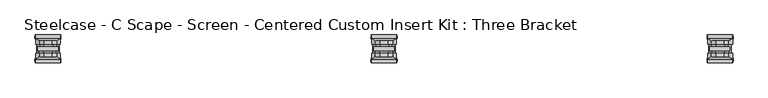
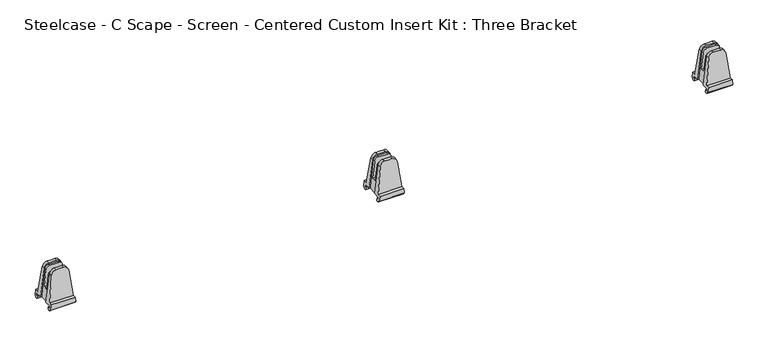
"""IFC4 building model written with IfcOpenShell, lengths in millimetres: furniture geometry, Steelcase - C Scape - Screen - Centered Custom Insert Kit : Three Bracket."""

from ifc_helpers import new_model, si_unit, frame, origin, place, context, project, spatial, circle_curve, ellipse_curve, source, transform, mapped, element, save
from ifc_brep_helpers import plane_surface, cylinder_surface, advanced_brep


def steelcase_c_scape_screen_centered_custom_insert_kit_three_046cbbfb(model_context):
    return source(origin(), model_context, "Body", "AdvancedBrep", [
        advanced_brep(
        [(753.8841595, -3.1752569, 793.5976353), (761.4879451, -3.1752569, 793.5976353), (769.13417, -3.1752569, 793.5976353), (769.13417, 3.17474, 793.5976353), (761.4879451, 3.17474, 793.5976353), (753.8841595, 3.17474, 793.5976353), (743.5729677, -3.1752569, 784.4759275), (736.1293978, -3.1752569, 723.9), (738.2133023, -3.1752569, 723.9), (744.4718736, -3.1752569, 783.4463283), (752.4737285, -3.1752569, 790.6512308), (772.0716053, -3.1752569, 790.6512308), (778.3871278, -3.1752569, 784.9620449), (784.7762521, -3.1752569, 723.9), (786.8889317, -3.1752569, 723.9), (779.4453617, -3.1752569, 784.4759275), (736.1293978, 10.1600734, 723.9), (786.8889317, 10.1600734, 723.9), (784.7762521, -22.2252569, 723.9), (786.8889317, -22.2250614, 723.9), (786.8889317, -35.5603917, 723.9), (736.1293978, -35.5603917, 723.9), (736.1293978, -22.2250614, 723.9), (738.2133023, -22.2250614, 723.9), (735.6607499, 10.1600734, 720.086134), (787.3575796, 10.1600734, 720.086134), (735.6607499, 6.7312129, 720.086134), (787.3575796, 6.7312129, 720.086134), (735.1301568, 6.7312129, 715.7681562), (787.8881727, 6.7312129, 715.7681562), (734.9195087, 9.1438564, 714.375), (788.0563815, 9.1438564, 714.375), (734.9589658, 11.8111354, 714.375), (788.0563815, 11.8111354, 714.375), (735.4271404, 15.6202052, 718.1850145), (787.5911891, 15.6202052, 718.1850145), (736.7754785, 15.6202052, 729.1578186), (786.242851, 15.6202052, 729.1578186), (736.7754785, 8.8135415, 729.1578186), (786.242851, 8.8135415, 729.1578186), (743.5729677, 3.9729344, 784.4759275), (779.4453617, 3.9729344, 784.4759275), (736.7754785, -34.2138598, 729.1578186), (786.242851, -34.2138598, 729.1578186), (779.4453617, -29.3732527, 784.4759275), (769.13417, -28.5750583, 793.5976353), (761.4879451, -28.5750583, 793.5976353), (753.8841595, -28.5750583, 793.5976353), (743.5729677, -29.3732527, 784.4759275), (736.7754785, -41.0205235, 729.1578186), (786.242851, -41.0205235, 729.1578186), (735.4271404, -41.0205235, 718.1850145), (787.5911891, -41.0205235, 718.1850145), (734.9195087, -37.2114537, 714.375), (788.0563815, -37.2114537, 714.375), (734.9589658, -34.5441746, 714.375), (788.0563815, -34.5441746, 714.375), (735.1301568, -32.1315312, 715.7681562), (787.8881727, -32.1315312, 715.7681562), (735.6607499, -32.1315312, 720.086134), (787.3575796, -32.1315312, 720.086134), (735.6607499, -35.5603917, 720.086134), (787.3575796, -35.5603917, 720.086134), (753.8841595, -22.2250614, 793.5976353), (761.4879451, -22.2250614, 793.5976353), (769.13417, -22.2250614, 793.5976353), (779.4453617, -22.2250614, 784.4759275), (778.9292917, -22.2250614, 779.780484), (771.1476145, -22.2250614, 786.79042), (751.6210312, -22.2250614, 786.79042), (744.1128008, -22.2250614, 780.0299789), (743.5729677, -22.2250614, 784.4759275), (751.6210312, -17.4500569, 786.79042), (771.1476145, -17.4500569, 786.79042), (778.9292917, -17.4500569, 779.780484), (782.2142458, -17.4500569, 748.3855694), (740.7868394, -17.4500569, 748.3855694), (744.1128008, -17.4500569, 780.0299789), (740.7868394, -7.9504569, 748.3855694), (744.4718736, -7.9504569, 783.4463283), (778.3871278, -7.9504569, 784.9620449), (782.2142458, -7.9504569, 748.3855694), (752.4737285, -7.9504569, 790.6512308), (772.0716053, -7.9504569, 790.6512308)],
        [
            (0, 1),
            (1, 2),
            (2, 3),
            (3, 4),
            (4, 5),
            (5, 0),
            (0, 6, circle_curve(frame((753.8841595, -3.1752569, 783.2088883), z_axis=(0.0, -1.0, 0.0), x_axis=(-1.0, 0.0, 0.0)), 10.388747)),
            (6, 7),
            (7, 8),
            (8, 9),
            (9, 10, circle_curve(frame((752.4737285, -3.1752569, 782.6052995), z_axis=(0.0, 1.0, 0.0), x_axis=(1.0, 0.0, 0.0)), 8.0459313)),
            (10, 11),
            (11, 12, circle_curve(frame((772.0716053, -3.1752569, 784.3012308), z_axis=(0.0, 1.0, 0.0), x_axis=(1.0, 0.0, 0.0)), 6.35)),
            (12, 13),
            (13, 14),
            (14, 15),
            (15, 2, circle_curve(frame((769.13417, -3.1752569, 783.2088883), z_axis=(0.0, -1.0, 0.0), x_axis=(1.0, 0.0, 0.0)), 10.388747)),
            (16, 17),
            (17, 14),
            (13, 18),
            (18, 19),
            (19, 20),
            (20, 21),
            (21, 22),
            (22, 23),
            (23, 8),
            (7, 16),
            (16, 24),
            (24, 25),
            (25, 17),
            (24, 26),
            (26, 27),
            (27, 25),
            (26, 28),
            (28, 29),
            (29, 27),
            (30, 31),
            (31, 29),
            (28, 30),
            (30, 32),
            (32, 33),
            (33, 31),
            (32, 34),
            (34, 35),
            (35, 33),
            (34, 36),
            (36, 37),
            (37, 35),
            (36, 38),
            (38, 39),
            (39, 37),
            (38, 40),
            (40, 5, ellipse_curve(frame((753.8841595, 4.0838066, 783.2088883), z_axis=(0.0, 0.9961932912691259, 0.08717182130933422), x_axis=(0.0, 0.08717182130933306, -0.9961932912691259)), 10.428445, 10.388747)),
            (3, 41, ellipse_curve(frame((769.13417, 4.0838066, 783.2088883), z_axis=(0.0, 0.9961932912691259, 0.08717182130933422), x_axis=(0.0, 0.08717182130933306, -0.9961932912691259)), 10.428445, 10.388747)),
            (41, 39),
            (42, 43),
            (43, 44),
            (44, 45, ellipse_curve(frame((769.13417, -29.4841248, 783.2088883), z_axis=(0.0, -0.9961932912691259, 0.08717182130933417), x_axis=(0.0, 0.08717182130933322, 0.996193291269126)), 10.428445, 10.388747)),
            (45, 46),
            (46, 47),
            (47, 48, ellipse_curve(frame((753.8841595, -29.4841248, 783.2088883), z_axis=(0.0, -0.9961932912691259, 0.08717182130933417), x_axis=(0.0, 0.08717182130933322, 0.996193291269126)), 10.428445, 10.388747)),
            (48, 42),
            (42, 49),
            (49, 50),
            (50, 43),
            (49, 51),
            (51, 52),
            (52, 50),
            (53, 54),
            (54, 52),
            (51, 53),
            (53, 55),
            (55, 56),
            (56, 54),
            (55, 57),
            (57, 58),
            (58, 56),
            (57, 59),
            (59, 60),
            (60, 58),
            (59, 61),
            (61, 62),
            (62, 60),
            (61, 21),
            (20, 62),
            (63, 64),
            (64, 65),
            (65, 66, circle_curve(frame((769.13417, -22.2250614, 783.2088883), z_axis=(0.0, 1.0, 0.0), x_axis=(1.0, 0.0, 0.0)), 10.388747)),
            (66, 19),
            (18, 67),
            (67, 68, circle_curve(frame((771.1476145, -22.2250614, 778.9662613), z_axis=(0.0, -1.0, 0.0), x_axis=(1.0, 0.0, 0.0)), 7.8241587)),
            (68, 69),
            (69, 70, circle_curve(frame((751.6210312, -22.2250614, 779.2408321), z_axis=(0.0, -1.0, 0.0), x_axis=(1.0, 0.0, 0.0)), 7.5495878)),
            (70, 23),
            (22, 71),
            (71, 63, circle_curve(frame((753.8841595, -22.2250614, 783.2088883), z_axis=(0.0, 1.0, 0.0), x_axis=(-1.0, 0.0, 0.0)), 10.388747)),
            (45, 65),
            (63, 47),
            (6, 40),
            (48, 71),
            (15, 41),
            (44, 66),
            (72, 73),
            (73, 74, circle_curve(frame((771.1476145, -17.4500569, 778.9662613), z_axis=(0.0, 1.0, 0.0), x_axis=(1.0, 0.0, 0.0)), 7.8241587)),
            (74, 75),
            (75, 76),
            (76, 77),
            (77, 72, circle_curve(frame((751.6210312, -17.4500569, 779.2408321), z_axis=(0.0, 1.0, 0.0), x_axis=(1.0, 0.0, 0.0)), 7.5495878)),
            (77, 70),
            (69, 72),
            (76, 78),
            (78, 79),
            (79, 9),
            (12, 80),
            (80, 81),
            (81, 75),
            (74, 67),
            (73, 68),
            (82, 79, circle_curve(frame((752.4737285, -7.9504569, 782.6052995), z_axis=(0.0, -1.0, 0.0), x_axis=(1.0, 0.0, 0.0)), 8.0459313)),
            (78, 81),
            (80, 83, circle_curve(frame((772.0716053, -7.9504569, 784.3012308), z_axis=(0.0, -1.0, 0.0), x_axis=(1.0, 0.0, 0.0)), 6.35)),
            (83, 82),
            (82, 10),
            (11, 83),
        ],
        [
            plane_surface(frame((788.0563815, 3.17474, 793.5976353), z_axis=(0.0, 0.0, 1.0), x_axis=(-1.0, 0.0, 0.0))),
            plane_surface(frame((788.0563815, -3.1752569, 793.5976353), z_axis=(0.0, -1.0, 0.0), x_axis=(-1.0, 0.0, 0.0))),
            plane_surface(frame((788.0563815, -3.1752569, 723.9), z_axis=(0.0, 0.0, -1.0), x_axis=(-1.0, 0.0, 0.0))),
            plane_surface(frame((788.0563815, 10.1600734, 723.9), z_axis=(0.0, -1.0, 0.0), x_axis=(-1.0, 0.0, 0.0))),
            plane_surface(frame((788.0563815, 10.1600734, 720.086134), z_axis=(0.0, 0.0, 1.0), x_axis=(-1.0, 0.0, 0.0))),
            plane_surface(frame((788.0563815, 6.7312129, 720.086134), z_axis=(0.0, -1.0, 0.0), x_axis=(-1.0, 0.0, 0.0))),
            plane_surface(frame((788.0563815, 6.7312129, 715.7681562), z_axis=(0.0, -0.5000581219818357, -0.8659918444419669), x_axis=(-1.0, 0.0, 0.0))),
            plane_surface(frame((788.0563815, 9.1438564, 714.375), z_axis=(0.0, 0.0, -1.0), x_axis=(-1.0, 0.0, 0.0))),
            plane_surface(frame((788.0563815, 11.8111354, 714.375), z_axis=(0.0, 0.7071944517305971, -0.7070190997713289), x_axis=(-1.0, 0.0, 0.0))),
            plane_surface(frame((788.0563815, 15.6202052, 718.1850145), z_axis=(0.0, 1.0, 0.0), x_axis=(-1.0, 0.0, 0.0))),
            plane_surface(frame((788.0563815, 15.6202052, 729.1578186), z_axis=(0.0, 0.0, 1.0), x_axis=(-1.0, 0.0, 0.0))),
            plane_surface(frame((788.0563815, 8.8135415, 729.1578186), z_axis=(0.0, 0.9961932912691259, 0.08717182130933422), x_axis=(-1.0, 0.0, 0.0))),
            plane_surface(frame((788.0563815, -28.5750583, 793.5976353), z_axis=(0.0, -0.9961932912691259, 0.08717182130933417), x_axis=(-1.0, 0.0, 0.0))),
            plane_surface(frame((788.0563815, -34.2138598, 729.1578186), z_axis=(0.0, 0.0, 1.0), x_axis=(-1.0, 0.0, 0.0))),
            plane_surface(frame((788.0563815, -41.0205235, 729.1578186), z_axis=(0.0, -1.0, 0.0), x_axis=(-1.0, 0.0, 0.0))),
            plane_surface(frame((788.0563815, -41.0205235, 718.1850145), z_axis=(0.0, -0.7071944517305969, -0.707019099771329), x_axis=(-1.0, 0.0, 0.0))),
            plane_surface(frame((788.0563815, -37.2114537, 714.375), z_axis=(0.0, 0.0, -1.0), x_axis=(-1.0, 0.0, 0.0))),
            plane_surface(frame((788.0563815, -34.5441746, 714.375), z_axis=(0.0, 0.5000581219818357, -0.8659918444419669), x_axis=(-1.0, 0.0, 0.0))),
            plane_surface(frame((788.0563815, -32.1315312, 715.7681562), z_axis=(0.0, 1.0, 0.0), x_axis=(-1.0, 0.0, 0.0))),
            plane_surface(frame((788.0563815, -32.1315312, 720.086134), z_axis=(0.0, 0.0, 1.0), x_axis=(-1.0, 0.0, 0.0))),
            plane_surface(frame((788.0563815, -35.5603917, 720.086134), z_axis=(0.0, 1.0, 0.0), x_axis=(-1.0, 0.0, 0.0))),
            plane_surface(frame((788.0563815, -22.2250614, 723.9), z_axis=(0.0, 1.0, 0.0), x_axis=(-1.0, 0.0, 0.0))),
            plane_surface(frame((788.0563815, -22.2250614, 793.5976353), z_axis=(0.0, 0.0, 1.0), x_axis=(-1.0, 0.0, 0.0))),
            plane_surface(frame((734.9589658, -43.2064559, 714.375), z_axis=(-0.9925346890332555, 0.0, 0.12196266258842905), x_axis=(0.0, 1.0, 0.0))),
            cylinder_surface(frame((753.8841595, 17.5208706, 783.2088883), z_axis=(0.0, 1.0, 0.0), x_axis=(-1.0, 0.0, 0.0)), 10.388747),
            cylinder_surface(frame((769.13417, 17.5208706, 783.2088883), z_axis=(0.0, 1.0, 0.0), x_axis=(1.0, 0.0, 0.0)), 10.388747),
            plane_surface(frame((779.4453617, -43.2064559, 784.4759275), z_axis=(0.9925346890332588, 0.0, 0.12196266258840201), x_axis=(0.0, 1.0, 0.0))),
            plane_surface(frame((759.1706191, -17.4500569, 779.2408321), z_axis=(0.0, 1.0, 0.0), x_axis=(0.0, 0.0, -1.0))),
            cylinder_surface(frame((751.6210312, -17.4500569, 779.2408321), z_axis=(0.0, -1.0, 0.0), x_axis=(1.0, 0.0, 0.0)), 7.5495878),
            plane_surface(frame((744.1128008, -22.2252569, 780.0299789), z_axis=(-0.9945218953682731, 0.0, 0.10452846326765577), x_axis=(0.0, 1.0, 0.0))),
            plane_surface(frame((784.7762521, -22.2252569, 723.9), z_axis=(0.9945704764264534, 0.0, 0.10406520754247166), x_axis=(0.0, 1.0, 0.0))),
            cylinder_surface(frame((771.1476145, -17.4500569, 778.9662613), z_axis=(0.0, -1.0, 0.0), x_axis=(1.0, 0.0, 0.0)), 7.8241587),
            plane_surface(frame((771.1476145, -22.2252569, 786.79042), z_axis=(0.0, 0.0, 1.0), x_axis=(0.0, 1.0, 0.0))),
            plane_surface(frame((760.5196598, -7.9504569, 782.6052995), z_axis=(0.0, -1.0, 0.0), x_axis=(0.0, 0.0, 1.0))),
            cylinder_surface(frame((752.4737285, -3.1752569, 782.6052995), z_axis=(0.0, -1.0, 0.0), x_axis=(1.0, 0.0, 0.0)), 8.0459313),
            cylinder_surface(frame((772.0716053, -3.1752569, 784.3012308), z_axis=(0.0, -1.0, 0.0), x_axis=(1.0, 0.0, 0.0)), 6.35),
            plane_surface(frame((772.0716053, -7.9504569, 790.6512308), z_axis=(0.0, 0.0, 1.0), x_axis=(0.0, 1.0, 0.0))),
            plane_surface(frame((782.2142458, -17.4500569, 748.3855694), z_axis=(0.0, 0.0, 1.0), x_axis=(0.0, 1.0, 0.0))),
        ],
        [
            (0, [[1, 2, 3, 4, 5, 6]]),
            (1, [[-1, 7, 8, 9, 10, 11, 12, 13, 14, 15, 16, 17, -2]]),
            (2, [[18, 19, -15, 20, 21, 22, 23, 24, 25, 26, -9, 27]]),
            (3, [[-18, 28, 29, 30]]),
            (4, [[-29, 31, 32, 33]]),
            (5, [[-32, 34, 35, 36]]),
            (6, [[37, 38, -35, 39]]),
            (7, [[-37, 40, 41, 42]]),
            (8, [[-41, 43, 44, 45]]),
            (9, [[-44, 46, 47, 48]]),
            (10, [[-47, 49, 50, 51]]),
            (11, [[-50, 52, 53, -5, -4, 54, 55]]),
            (12, [[56, 57, 58, 59, 60, 61, 62]]),
            (13, [[-56, 63, 64, 65]]),
            (14, [[-64, 66, 67, 68]]),
            (15, [[69, 70, -67, 71]]),
            (16, [[-69, 72, 73, 74]]),
            (17, [[-73, 75, 76, 77]]),
            (18, [[-76, 78, 79, 80]]),
            (19, [[-79, 81, 82, 83]]),
            (20, [[-82, 84, -23, 85]]),
            (21, [[86, 87, 88, 89, -21, 90, 91, 92, 93, 94, -25, 95, 96]]),
            (22, [[-59, 97, -87, -86, 98, -60]]),
            (23, [[99, -52, -49, -46, -43, -40, -39, -34, -31, -28, -27, -8]]),
            (23, [[100, -95, -24, -84, -81, -78, -75, -72, -71, -66, -63, -62]]),
            (24, [[-99, -7, -6, -53]]),
            (24, [[-100, -61, -98, -96]]),
            (25, [[101, -54, -3, -17]]),
            (25, [[102, -88, -97, -58]]),
            (26, [[-101, -16, -19, -30, -33, -36, -38, -42, -45, -48, -51, -55]]),
            (26, [[-102, -57, -65, -68, -70, -74, -77, -80, -83, -85, -22, -89]]),
            (27, [[103, 104, 105, 106, 107, 108]]),
            (28, [[-108, 109, -93, 110]]),
            (29, [[-109, -107, 111, 112, 113, -10, -26, -94]]),
            (30, [[-20, -14, 114, 115, 116, -105, 117, -90]]),
            (31, [[-104, 118, -91, -117]]),
            (32, [[-103, -110, -92, -118]]),
            (33, [[119, -112, 120, -115, 121, 122]]),
            (34, [[-119, 123, -11, -113]]),
            (35, [[-121, -114, -13, 124]]),
            (36, [[-122, -124, -12, -123]]),
            (37, [[-111, -106, -116, -120]]),
        ],
    ),
        advanced_brep(
        [(1440.7509563, -3.1752569, 793.5976353), (1448.3547419, -3.1752569, 793.5976353), (1456.0009668, -3.1752569, 793.5976353), (1456.0009668, 3.17474, 793.5976353), (1448.3547419, 3.17474, 793.5976353), (1440.7509563, 3.17474, 793.5976353), (1430.4397645, -3.1752569, 784.4759275), (1422.9961946, -3.1752569, 723.9), (1425.0800991, -3.1752569, 723.9), (1431.3386704, -3.1752569, 783.4463283), (1439.3405253, -3.1752569, 790.6512308), (1458.9384021, -3.1752569, 790.6512308), (1465.2539246, -3.1752569, 784.9620449), (1471.6430489, -3.1752569, 723.9), (1473.7557285, -3.1752569, 723.9), (1466.3121585, -3.1752569, 784.4759275), (1422.9961946, 10.1600734, 723.9), (1473.7557285, 10.1600734, 723.9), (1471.6430489, -22.2252569, 723.9), (1473.7557285, -22.2250614, 723.9), (1473.7557285, -35.5603917, 723.9), (1422.9961946, -35.5603917, 723.9), (1422.9961946, -22.2250614, 723.9), (1425.0800991, -22.2250614, 723.9), (1422.5275467, 10.1600734, 720.086134), (1474.2243764, 10.1600734, 720.086134), (1422.5275467, 6.7312129, 720.086134), (1474.2243764, 6.7312129, 720.086134), (1421.9969536, 6.7312129, 715.7681562), (1474.7549695, 6.7312129, 715.7681562), (1421.7863055, 9.1438564, 714.375), (1474.9231783, 9.1438564, 714.375), (1421.8257626, 11.8111354, 714.375), (1474.9231783, 11.8111354, 714.375), (1422.2939371, 15.6202052, 718.1850145), (1474.4579859, 15.6202052, 718.1850145), (1423.6422753, 15.6202052, 729.1578186), (1473.1096478, 15.6202052, 729.1578186), (1423.6422753, 8.8135415, 729.1578186), (1473.1096478, 8.8135415, 729.1578186), (1430.4397645, 3.9729344, 784.4759275), (1466.3121585, 3.9729344, 784.4759275), (1423.6422753, -34.2138598, 729.1578186), (1473.1096478, -34.2138598, 729.1578186), (1466.3121585, -29.3732527, 784.4759275), (1456.0009668, -28.5750583, 793.5976353), (1448.3547419, -28.5750583, 793.5976353), (1440.7509563, -28.5750583, 793.5976353), (1430.4397645, -29.3732527, 784.4759275), (1423.6422753, -41.0205235, 729.1578186), (1473.1096478, -41.0205235, 729.1578186), (1422.2939371, -41.0205235, 718.1850145), (1474.4579859, -41.0205235, 718.1850145), (1421.7863055, -37.2114537, 714.375), (1474.9231783, -37.2114537, 714.375), (1421.8257626, -34.5441746, 714.375), (1474.9231783, -34.5441746, 714.375), (1421.9969536, -32.1315312, 715.7681562), (1474.7549695, -32.1315312, 715.7681562), (1422.5275467, -32.1315312, 720.086134), (1474.2243764, -32.1315312, 720.086134), (1422.5275467, -35.5603917, 720.086134), (1474.2243764, -35.5603917, 720.086134), (1440.7509563, -22.2250614, 793.5976353), (1448.3547419, -22.2250614, 793.5976353), (1456.0009668, -22.2250614, 793.5976353), (1466.3121585, -22.2250614, 784.4759275), (1465.7960885, -22.2250614, 779.780484), (1458.0144113, -22.2250614, 786.79042), (1438.487828, -22.2250614, 786.79042), (1430.9795976, -22.2250614, 780.0299789), (1430.4397645, -22.2250614, 784.4759275), (1438.487828, -17.4500569, 786.79042), (1458.0144113, -17.4500569, 786.79042), (1465.7960885, -17.4500569, 779.780484), (1469.0810426, -17.4500569, 748.3855694), (1427.6536361, -17.4500569, 748.3855694), (1430.9795976, -17.4500569, 780.0299789), (1427.6536361, -7.9504569, 748.3855694), (1431.3386704, -7.9504569, 783.4463283), (1465.2539246, -7.9504569, 784.9620449), (1469.0810426, -7.9504569, 748.3855694), (1439.3405253, -7.9504569, 790.6512308), (1458.9384021, -7.9504569, 790.6512308)],
        [
            (0, 1),
            (1, 2),
            (2, 3),
            (3, 4),
            (4, 5),
            (5, 0),
            (0, 6, circle_curve(frame((1440.7509563, -3.1752569, 783.2088883), z_axis=(0.0, -1.0, 0.0), x_axis=(-1.0, 0.0, 0.0)), 10.388747)),
            (6, 7),
            (7, 8),
            (8, 9),
            (9, 10, circle_curve(frame((1439.3405253, -3.1752569, 782.6052995), z_axis=(0.0, 1.0, 0.0), x_axis=(1.0, 0.0, 0.0)), 8.0459313)),
            (10, 11),
            (11, 12, circle_curve(frame((1458.9384021, -3.1752569, 784.3012308), z_axis=(0.0, 1.0, 0.0), x_axis=(1.0, 0.0, 0.0)), 6.35)),
            (12, 13),
            (13, 14),
            (14, 15),
            (15, 2, circle_curve(frame((1456.0009668, -3.1752569, 783.2088883), z_axis=(0.0, -1.0, 0.0), x_axis=(1.0, 0.0, 0.0)), 10.388747)),
            (16, 17),
            (17, 14),
            (13, 18),
            (18, 19),
            (19, 20),
            (20, 21),
            (21, 22),
            (22, 23),
            (23, 8),
            (7, 16),
            (16, 24),
            (24, 25),
            (25, 17),
            (24, 26),
            (26, 27),
            (27, 25),
            (26, 28),
            (28, 29),
            (29, 27),
            (30, 31),
            (31, 29),
            (28, 30),
            (30, 32),
            (32, 33),
            (33, 31),
            (32, 34),
            (34, 35),
            (35, 33),
            (34, 36),
            (36, 37),
            (37, 35),
            (36, 38),
            (38, 39),
            (39, 37),
            (38, 40),
            (40, 5, ellipse_curve(frame((1440.7509563, 4.0838066, 783.2088883), z_axis=(0.0, 0.9961932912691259, 0.08717182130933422), x_axis=(0.0, 0.08717182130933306, -0.9961932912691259)), 10.428445, 10.388747)),
            (3, 41, ellipse_curve(frame((1456.0009668, 4.0838066, 783.2088883), z_axis=(0.0, 0.9961932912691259, 0.08717182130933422), x_axis=(0.0, 0.08717182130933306, -0.9961932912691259)), 10.428445, 10.388747)),
            (41, 39),
            (42, 43),
            (43, 44),
            (44, 45, ellipse_curve(frame((1456.0009668, -29.4841248, 783.2088883), z_axis=(0.0, -0.9961932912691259, 0.08717182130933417), x_axis=(0.0, 0.08717182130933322, 0.996193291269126)), 10.428445, 10.388747)),
            (45, 46),
            (46, 47),
            (47, 48, ellipse_curve(frame((1440.7509563, -29.4841248, 783.2088883), z_axis=(0.0, -0.9961932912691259, 0.08717182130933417), x_axis=(0.0, 0.08717182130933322, 0.996193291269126)), 10.428445, 10.388747)),
            (48, 42),
            (42, 49),
            (49, 50),
            (50, 43),
            (49, 51),
            (51, 52),
            (52, 50),
            (53, 54),
            (54, 52),
            (51, 53),
            (53, 55),
            (55, 56),
            (56, 54),
            (55, 57),
            (57, 58),
            (58, 56),
            (57, 59),
            (59, 60),
            (60, 58),
            (59, 61),
            (61, 62),
            (62, 60),
            (61, 21),
            (20, 62),
            (63, 64),
            (64, 65),
            (65, 66, circle_curve(frame((1456.0009668, -22.2250614, 783.2088883), z_axis=(0.0, 1.0, 0.0), x_axis=(1.0, 0.0, 0.0)), 10.388747)),
            (66, 19),
            (18, 67),
            (67, 68, circle_curve(frame((1458.0144113, -22.2250614, 778.9662613), z_axis=(0.0, -1.0, 0.0), x_axis=(1.0, 0.0, 0.0)), 7.8241587)),
            (68, 69),
            (69, 70, circle_curve(frame((1438.487828, -22.2250614, 779.2408321), z_axis=(0.0, -1.0, 0.0), x_axis=(1.0, 0.0, 0.0)), 7.5495878)),
            (70, 23),
            (22, 71),
            (71, 63, circle_curve(frame((1440.7509563, -22.2250614, 783.2088883), z_axis=(0.0, 1.0, 0.0), x_axis=(-1.0, 0.0, 0.0)), 10.388747)),
            (45, 65),
            (63, 47),
            (6, 40),
            (48, 71),
            (15, 41),
            (44, 66),
            (72, 73),
            (73, 74, circle_curve(frame((1458.0144113, -17.4500569, 778.9662613), z_axis=(0.0, 1.0, 0.0), x_axis=(1.0, 0.0, 0.0)), 7.8241587)),
            (74, 75),
            (75, 76),
            (76, 77),
            (77, 72, circle_curve(frame((1438.487828, -17.4500569, 779.2408321), z_axis=(0.0, 1.0, 0.0), x_axis=(1.0, 0.0, 0.0)), 7.5495878)),
            (77, 70),
            (69, 72),
            (76, 78),
            (78, 79),
            (79, 9),
            (12, 80),
            (80, 81),
            (81, 75),
            (74, 67),
            (73, 68),
            (82, 79, circle_curve(frame((1439.3405253, -7.9504569, 782.6052995), z_axis=(0.0, -1.0, 0.0), x_axis=(1.0, 0.0, 0.0)), 8.0459313)),
            (78, 81),
            (80, 83, circle_curve(frame((1458.9384021, -7.9504569, 784.3012308), z_axis=(0.0, -1.0, 0.0), x_axis=(1.0, 0.0, 0.0)), 6.35)),
            (83, 82),
            (82, 10),
            (11, 83),
        ],
        [
            plane_surface(frame((1474.9231783, 3.17474, 793.5976353), z_axis=(0.0, 0.0, 1.0), x_axis=(-1.0, 0.0, 0.0))),
            plane_surface(frame((1474.9231783, -3.1752569, 793.5976353), z_axis=(0.0, -1.0, 0.0), x_axis=(-1.0, 0.0, 0.0))),
            plane_surface(frame((1474.9231783, -3.1752569, 723.9), z_axis=(0.0, 0.0, -1.0), x_axis=(-1.0, 0.0, 0.0))),
            plane_surface(frame((1474.9231783, 10.1600734, 723.9), z_axis=(0.0, -1.0, 0.0), x_axis=(-1.0, 0.0, 0.0))),
            plane_surface(frame((1474.9231783, 10.1600734, 720.086134), z_axis=(0.0, 0.0, 1.0), x_axis=(-1.0, 0.0, 0.0))),
            plane_surface(frame((1474.9231783, 6.7312129, 720.086134), z_axis=(0.0, -1.0, 0.0), x_axis=(-1.0, 0.0, 0.0))),
            plane_surface(frame((1474.9231783, 6.7312129, 715.7681562), z_axis=(0.0, -0.5000581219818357, -0.8659918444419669), x_axis=(-1.0, 0.0, 0.0))),
            plane_surface(frame((1474.9231783, 9.1438564, 714.375), z_axis=(0.0, 0.0, -1.0), x_axis=(-1.0, 0.0, 0.0))),
            plane_surface(frame((1474.9231783, 11.8111354, 714.375), z_axis=(0.0, 0.7071944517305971, -0.7070190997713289), x_axis=(-1.0, 0.0, 0.0))),
            plane_surface(frame((1474.9231783, 15.6202052, 718.1850145), z_axis=(0.0, 1.0, 0.0), x_axis=(-1.0, 0.0, 0.0))),
            plane_surface(frame((1474.9231783, 15.6202052, 729.1578186), z_axis=(0.0, 0.0, 1.0), x_axis=(-1.0, 0.0, 0.0))),
            plane_surface(frame((1474.9231783, 8.8135415, 729.1578186), z_axis=(0.0, 0.9961932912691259, 0.08717182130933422), x_axis=(-1.0, 0.0, 0.0))),
            plane_surface(frame((1474.9231783, -28.5750583, 793.5976353), z_axis=(0.0, -0.9961932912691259, 0.08717182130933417), x_axis=(-1.0, 0.0, 0.0))),
            plane_surface(frame((1474.9231783, -34.2138598, 729.1578186), z_axis=(0.0, 0.0, 1.0), x_axis=(-1.0, 0.0, 0.0))),
            plane_surface(frame((1474.9231783, -41.0205235, 729.1578186), z_axis=(0.0, -1.0, 0.0), x_axis=(-1.0, 0.0, 0.0))),
            plane_surface(frame((1474.9231783, -41.0205235, 718.1850145), z_axis=(0.0, -0.7071944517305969, -0.707019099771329), x_axis=(-1.0, 0.0, 0.0))),
            plane_surface(frame((1474.9231783, -37.2114537, 714.375), z_axis=(0.0, 0.0, -1.0), x_axis=(-1.0, 0.0, 0.0))),
            plane_surface(frame((1474.9231783, -34.5441746, 714.375), z_axis=(0.0, 0.5000581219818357, -0.8659918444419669), x_axis=(-1.0, 0.0, 0.0))),
            plane_surface(frame((1474.9231783, -32.1315312, 715.7681562), z_axis=(0.0, 1.0, 0.0), x_axis=(-1.0, 0.0, 0.0))),
            plane_surface(frame((1474.9231783, -32.1315312, 720.086134), z_axis=(0.0, 0.0, 1.0), x_axis=(-1.0, 0.0, 0.0))),
            plane_surface(frame((1474.9231783, -35.5603917, 720.086134), z_axis=(0.0, 1.0, 0.0), x_axis=(-1.0, 0.0, 0.0))),
            plane_surface(frame((1474.9231783, -22.2250614, 723.9), z_axis=(0.0, 1.0, 0.0), x_axis=(-1.0, 0.0, 0.0))),
            plane_surface(frame((1474.9231783, -22.2250614, 793.5976353), z_axis=(0.0, 0.0, 1.0), x_axis=(-1.0, 0.0, 0.0))),
            plane_surface(frame((1421.8257626, -43.2064559, 714.375), z_axis=(-0.9925346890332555, 0.0, 0.12196266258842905), x_axis=(0.0, 1.0, 0.0))),
            cylinder_surface(frame((1440.7509563, 17.5208706, 783.2088883), z_axis=(0.0, 1.0, 0.0), x_axis=(-1.0, 0.0, 0.0)), 10.388747),
            cylinder_surface(frame((1456.0009668, 17.5208706, 783.2088883), z_axis=(0.0, 1.0, 0.0), x_axis=(1.0, 0.0, 0.0)), 10.388747),
            plane_surface(frame((1466.3121585, -43.2064559, 784.4759275), z_axis=(0.9925346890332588, 0.0, 0.12196266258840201), x_axis=(0.0, 1.0, 0.0))),
            plane_surface(frame((1446.0374158, -17.4500569, 779.2408321), z_axis=(0.0, 1.0, 0.0), x_axis=(0.0, 0.0, -1.0))),
            cylinder_surface(frame((1438.487828, -17.4500569, 779.2408321), z_axis=(0.0, -1.0, 0.0), x_axis=(1.0, 0.0, 0.0)), 7.5495878),
            plane_surface(frame((1430.9795976, -22.2252569, 780.0299789), z_axis=(-0.9945218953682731, 0.0, 0.10452846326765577), x_axis=(0.0, 1.0, 0.0))),
            plane_surface(frame((1471.6430489, -22.2252569, 723.9), z_axis=(0.9945704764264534, 0.0, 0.10406520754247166), x_axis=(0.0, 1.0, 0.0))),
            cylinder_surface(frame((1458.0144113, -17.4500569, 778.9662613), z_axis=(0.0, -1.0, 0.0), x_axis=(1.0, 0.0, 0.0)), 7.8241587),
            plane_surface(frame((1458.0144113, -22.2252569, 786.79042), z_axis=(0.0, 0.0, 1.0), x_axis=(0.0, 1.0, 0.0))),
            plane_surface(frame((1447.3864566, -7.9504569, 782.6052995), z_axis=(0.0, -1.0, 0.0), x_axis=(0.0, 0.0, 1.0))),
            cylinder_surface(frame((1439.3405253, -3.1752569, 782.6052995), z_axis=(0.0, -1.0, 0.0), x_axis=(1.0, 0.0, 0.0)), 8.0459313),
            cylinder_surface(frame((1458.9384021, -3.1752569, 784.3012308), z_axis=(0.0, -1.0, 0.0), x_axis=(1.0, 0.0, 0.0)), 6.35),
            plane_surface(frame((1458.9384021, -7.9504569, 790.6512308), z_axis=(0.0, 0.0, 1.0), x_axis=(0.0, 1.0, 0.0))),
            plane_surface(frame((1469.0810426, -17.4500569, 748.3855694), z_axis=(0.0, 0.0, 1.0), x_axis=(0.0, 1.0, 0.0))),
        ],
        [
            (0, [[1, 2, 3, 4, 5, 6]]),
            (1, [[-1, 7, 8, 9, 10, 11, 12, 13, 14, 15, 16, 17, -2]]),
            (2, [[18, 19, -15, 20, 21, 22, 23, 24, 25, 26, -9, 27]]),
            (3, [[-18, 28, 29, 30]]),
            (4, [[-29, 31, 32, 33]]),
            (5, [[-32, 34, 35, 36]]),
            (6, [[37, 38, -35, 39]]),
            (7, [[-37, 40, 41, 42]]),
            (8, [[-41, 43, 44, 45]]),
            (9, [[-44, 46, 47, 48]]),
            (10, [[-47, 49, 50, 51]]),
            (11, [[-50, 52, 53, -5, -4, 54, 55]]),
            (12, [[56, 57, 58, 59, 60, 61, 62]]),
            (13, [[-56, 63, 64, 65]]),
            (14, [[-64, 66, 67, 68]]),
            (15, [[69, 70, -67, 71]]),
            (16, [[-69, 72, 73, 74]]),
            (17, [[-73, 75, 76, 77]]),
            (18, [[-76, 78, 79, 80]]),
            (19, [[-79, 81, 82, 83]]),
            (20, [[-82, 84, -23, 85]]),
            (21, [[86, 87, 88, 89, -21, 90, 91, 92, 93, 94, -25, 95, 96]]),
            (22, [[-59, 97, -87, -86, 98, -60]]),
            (23, [[99, -52, -49, -46, -43, -40, -39, -34, -31, -28, -27, -8]]),
            (23, [[100, -95, -24, -84, -81, -78, -75, -72, -71, -66, -63, -62]]),
            (24, [[-99, -7, -6, -53]]),
            (24, [[-100, -61, -98, -96]]),
            (25, [[101, -54, -3, -17]]),
            (25, [[102, -88, -97, -58]]),
            (26, [[-101, -16, -19, -30, -33, -36, -38, -42, -45, -48, -51, -55]]),
            (26, [[-102, -57, -65, -68, -70, -74, -77, -80, -83, -85, -22, -89]]),
            (27, [[103, 104, 105, 106, 107, 108]]),
            (28, [[-108, 109, -93, 110]]),
            (29, [[-109, -107, 111, 112, 113, -10, -26, -94]]),
            (30, [[-20, -14, 114, 115, 116, -105, 117, -90]]),
            (31, [[-104, 118, -91, -117]]),
            (32, [[-103, -110, -92, -118]]),
            (33, [[119, -112, 120, -115, 121, 122]]),
            (34, [[-119, 123, -11, -113]]),
            (35, [[-121, -114, -13, 124]]),
            (36, [[-122, -124, -12, -123]]),
            (37, [[-111, -106, -116, -120]]),
        ],
    ),
        advanced_brep(
        [(67.0173627, -3.1752569, 793.5976353), (74.6211483, -3.1752569, 793.5976353), (82.2673732, -3.1752569, 793.5976353), (82.2673732, 3.17474, 793.5976353), (74.6211483, 3.17474, 793.5976353), (67.0173627, 3.17474, 793.5976353), (56.706171, -3.1752569, 784.4759275), (49.262601, -3.1752569, 723.9), (51.3465055, -3.1752569, 723.9), (57.6050768, -3.1752569, 783.4463283), (65.6069317, -3.1752569, 790.6512308), (85.2048085, -3.1752569, 790.6512308), (91.520331, -3.1752569, 784.9620449), (97.9094553, -3.1752569, 723.9), (100.0221349, -3.1752569, 723.9), (92.578565, -3.1752569, 784.4759275), (49.262601, 10.1600734, 723.9), (100.0221349, 10.1600734, 723.9), (97.9094553, -22.2252569, 723.9), (100.0221349, -22.2250614, 723.9), (100.0221349, -35.5603917, 723.9), (49.262601, -35.5603917, 723.9), (49.262601, -22.2250614, 723.9), (51.3465055, -22.2250614, 723.9), (48.7939531, 10.1600734, 720.086134), (100.4907828, 10.1600734, 720.086134), (48.7939531, 6.7312129, 720.086134), (100.4907828, 6.7312129, 720.086134), (48.26336, 6.7312129, 715.7681562), (101.0213759, 6.7312129, 715.7681562), (48.0527119, 9.1438564, 714.375), (101.1895848, 9.1438564, 714.375), (48.092169, 11.8111354, 714.375), (101.1895848, 11.8111354, 714.375), (48.5603436, 15.6202052, 718.1850145), (100.7243923, 15.6202052, 718.1850145), (49.9086817, 15.6202052, 729.1578186), (99.3760542, 15.6202052, 729.1578186), (49.9086817, 8.8135415, 729.1578186), (99.3760542, 8.8135415, 729.1578186), (56.706171, 3.9729344, 784.4759275), (92.578565, 3.9729344, 784.4759275), (49.9086817, -34.2138598, 729.1578186), (99.3760542, -34.2138598, 729.1578186), (92.578565, -29.3732527, 784.4759275), (82.2673732, -28.5750583, 793.5976353), (74.6211483, -28.5750583, 793.5976353), (67.0173627, -28.5750583, 793.5976353), (56.706171, -29.3732527, 784.4759275), (49.9086817, -41.0205235, 729.1578186), (99.3760542, -41.0205235, 729.1578186), (48.5603436, -41.0205235, 718.1850145), (100.7243923, -41.0205235, 718.1850145), (48.0527119, -37.2114537, 714.375), (101.1895848, -37.2114537, 714.375), (48.092169, -34.5441746, 714.375), (101.1895848, -34.5441746, 714.375), (48.26336, -32.1315312, 715.7681562), (101.0213759, -32.1315312, 715.7681562), (48.7939531, -32.1315312, 720.086134), (100.4907828, -32.1315312, 720.086134), (48.7939531, -35.5603917, 720.086134), (100.4907828, -35.5603917, 720.086134), (67.0173627, -22.2250614, 793.5976353), (74.6211483, -22.2250614, 793.5976353), (82.2673732, -22.2250614, 793.5976353), (92.578565, -22.2250614, 784.4759275), (92.0624949, -22.2250614, 779.780484), (84.2808177, -22.2250614, 786.79042), (64.7542344, -22.2250614, 786.79042), (57.246004, -22.2250614, 780.0299789), (56.706171, -22.2250614, 784.4759275), (64.7542344, -17.4500569, 786.79042), (84.2808177, -17.4500569, 786.79042), (92.0624949, -17.4500569, 779.780484), (95.347449, -17.4500569, 748.3855694), (53.9200426, -17.4500569, 748.3855694), (57.246004, -17.4500569, 780.0299789), (53.9200426, -7.9504569, 748.3855694), (57.6050768, -7.9504569, 783.4463283), (91.520331, -7.9504569, 784.9620449), (95.347449, -7.9504569, 748.3855694), (65.6069317, -7.9504569, 790.6512308), (85.2048085, -7.9504569, 790.6512308)],
        [
            (0, 1),
            (1, 2),
            (2, 3),
            (3, 4),
            (4, 5),
            (5, 0),
            (0, 6, circle_curve(frame((67.0173627, -3.1752569, 783.2088883), z_axis=(0.0, -1.0, 0.0), x_axis=(-1.0, 0.0, 0.0)), 10.388747)),
            (6, 7),
            (7, 8),
            (8, 9),
            (9, 10, circle_curve(frame((65.6069317, -3.1752569, 782.6052995), z_axis=(0.0, 1.0, 0.0), x_axis=(1.0, 0.0, 0.0)), 8.0459313)),
            (10, 11),
            (11, 12, circle_curve(frame((85.2048085, -3.1752569, 784.3012308), z_axis=(0.0, 1.0, 0.0), x_axis=(1.0, 0.0, 0.0)), 6.35)),
            (12, 13),
            (13, 14),
            (14, 15),
            (15, 2, circle_curve(frame((82.2673732, -3.1752569, 783.2088883), z_axis=(0.0, -1.0, 0.0), x_axis=(1.0, 0.0, 0.0)), 10.388747)),
            (16, 17),
            (17, 14),
            (13, 18),
            (18, 19),
            (19, 20),
            (20, 21),
            (21, 22),
            (22, 23),
            (23, 8),
            (7, 16),
            (16, 24),
            (24, 25),
            (25, 17),
            (24, 26),
            (26, 27),
            (27, 25),
            (26, 28),
            (28, 29),
            (29, 27),
            (30, 31),
            (31, 29),
            (28, 30),
            (30, 32),
            (32, 33),
            (33, 31),
            (32, 34),
            (34, 35),
            (35, 33),
            (34, 36),
            (36, 37),
            (37, 35),
            (36, 38),
            (38, 39),
            (39, 37),
            (38, 40),
            (40, 5, ellipse_curve(frame((67.0173627, 4.0838066, 783.2088883), z_axis=(0.0, 0.9961932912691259, 0.08717182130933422), x_axis=(0.0, 0.08717182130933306, -0.9961932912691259)), 10.428445, 10.388747)),
            (3, 41, ellipse_curve(frame((82.2673732, 4.0838066, 783.2088883), z_axis=(0.0, 0.9961932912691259, 0.08717182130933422), x_axis=(0.0, 0.08717182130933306, -0.9961932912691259)), 10.428445, 10.388747)),
            (41, 39),
            (42, 43),
            (43, 44),
            (44, 45, ellipse_curve(frame((82.2673732, -29.4841248, 783.2088883), z_axis=(0.0, -0.9961932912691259, 0.08717182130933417), x_axis=(0.0, 0.08717182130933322, 0.996193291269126)), 10.428445, 10.388747)),
            (45, 46),
            (46, 47),
            (47, 48, ellipse_curve(frame((67.0173627, -29.4841248, 783.2088883), z_axis=(0.0, -0.9961932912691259, 0.08717182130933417), x_axis=(0.0, 0.08717182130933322, 0.996193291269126)), 10.428445, 10.388747)),
            (48, 42),
            (42, 49),
            (49, 50),
            (50, 43),
            (49, 51),
            (51, 52),
            (52, 50),
            (53, 54),
            (54, 52),
            (51, 53),
            (53, 55),
            (55, 56),
            (56, 54),
            (55, 57),
            (57, 58),
            (58, 56),
            (57, 59),
            (59, 60),
            (60, 58),
            (59, 61),
            (61, 62),
            (62, 60),
            (61, 21),
            (20, 62),
            (63, 64),
            (64, 65),
            (65, 66, circle_curve(frame((82.2673732, -22.2250614, 783.2088883), z_axis=(0.0, 1.0, 0.0), x_axis=(1.0, 0.0, 0.0)), 10.388747)),
            (66, 19),
            (18, 67),
            (67, 68, circle_curve(frame((84.2808177, -22.2250614, 778.9662613), z_axis=(0.0, -1.0, 0.0), x_axis=(1.0, 0.0, 0.0)), 7.8241587)),
            (68, 69),
            (69, 70, circle_curve(frame((64.7542344, -22.2250614, 779.2408321), z_axis=(0.0, -1.0, 0.0), x_axis=(1.0, 0.0, 0.0)), 7.5495878)),
            (70, 23),
            (22, 71),
            (71, 63, circle_curve(frame((67.0173627, -22.2250614, 783.2088883), z_axis=(0.0, 1.0, 0.0), x_axis=(-1.0, 0.0, 0.0)), 10.388747)),
            (45, 65),
            (63, 47),
            (6, 40),
            (48, 71),
            (15, 41),
            (44, 66),
            (72, 73),
            (73, 74, circle_curve(frame((84.2808177, -17.4500569, 778.9662613), z_axis=(0.0, 1.0, 0.0), x_axis=(1.0, 0.0, 0.0)), 7.8241587)),
            (74, 75),
            (75, 76),
            (76, 77),
            (77, 72, circle_curve(frame((64.7542344, -17.4500569, 779.2408321), z_axis=(0.0, 1.0, 0.0), x_axis=(1.0, 0.0, 0.0)), 7.5495878)),
            (77, 70),
            (69, 72),
            (76, 78),
            (78, 79),
            (79, 9),
            (12, 80),
            (80, 81),
            (81, 75),
            (74, 67),
            (73, 68),
            (82, 79, circle_curve(frame((65.6069317, -7.9504569, 782.6052995), z_axis=(0.0, -1.0, 0.0), x_axis=(1.0, 0.0, 0.0)), 8.0459313)),
            (78, 81),
            (80, 83, circle_curve(frame((85.2048085, -7.9504569, 784.3012308), z_axis=(0.0, -1.0, 0.0), x_axis=(1.0, 0.0, 0.0)), 6.35)),
            (83, 82),
            (82, 10),
            (11, 83),
        ],
        [
            plane_surface(frame((101.1895848, 3.17474, 793.5976353), z_axis=(0.0, 0.0, 1.0), x_axis=(-1.0, 0.0, 0.0))),
            plane_surface(frame((101.1895848, -3.1752569, 793.5976353), z_axis=(0.0, -1.0, 0.0), x_axis=(-1.0, 0.0, 0.0))),
            plane_surface(frame((101.1895848, -3.1752569, 723.9), z_axis=(0.0, 0.0, -1.0), x_axis=(-1.0, 0.0, 0.0))),
            plane_surface(frame((101.1895848, 10.1600734, 723.9), z_axis=(0.0, -1.0, 0.0), x_axis=(-1.0, 0.0, 0.0))),
            plane_surface(frame((101.1895848, 10.1600734, 720.086134), z_axis=(0.0, 0.0, 1.0), x_axis=(-1.0, 0.0, 0.0))),
            plane_surface(frame((101.1895848, 6.7312129, 720.086134), z_axis=(0.0, -1.0, 0.0), x_axis=(-1.0, 0.0, 0.0))),
            plane_surface(frame((101.1895848, 6.7312129, 715.7681562), z_axis=(0.0, -0.5000581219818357, -0.8659918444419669), x_axis=(-1.0, 0.0, 0.0))),
            plane_surface(frame((101.1895848, 9.1438564, 714.375), z_axis=(0.0, 0.0, -1.0), x_axis=(-1.0, 0.0, 0.0))),
            plane_surface(frame((101.1895848, 11.8111354, 714.375), z_axis=(0.0, 0.7071944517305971, -0.7070190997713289), x_axis=(-1.0, 0.0, 0.0))),
            plane_surface(frame((101.1895848, 15.6202052, 718.1850145), z_axis=(0.0, 1.0, 0.0), x_axis=(-1.0, 0.0, 0.0))),
            plane_surface(frame((101.1895848, 15.6202052, 729.1578186), z_axis=(0.0, 0.0, 1.0), x_axis=(-1.0, 0.0, 0.0))),
            plane_surface(frame((101.1895848, 8.8135415, 729.1578186), z_axis=(0.0, 0.9961932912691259, 0.08717182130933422), x_axis=(-1.0, 0.0, 0.0))),
            plane_surface(frame((101.1895848, -28.5750583, 793.5976353), z_axis=(0.0, -0.9961932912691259, 0.08717182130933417), x_axis=(-1.0, 0.0, 0.0))),
            plane_surface(frame((101.1895848, -34.2138598, 729.1578186), z_axis=(0.0, 0.0, 1.0), x_axis=(-1.0, 0.0, 0.0))),
            plane_surface(frame((101.1895848, -41.0205235, 729.1578186), z_axis=(0.0, -1.0, 0.0), x_axis=(-1.0, 0.0, 0.0))),
            plane_surface(frame((101.1895848, -41.0205235, 718.1850145), z_axis=(0.0, -0.7071944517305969, -0.707019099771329), x_axis=(-1.0, 0.0, 0.0))),
            plane_surface(frame((101.1895848, -37.2114537, 714.375), z_axis=(0.0, 0.0, -1.0), x_axis=(-1.0, 0.0, 0.0))),
            plane_surface(frame((101.1895848, -34.5441746, 714.375), z_axis=(0.0, 0.5000581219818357, -0.8659918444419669), x_axis=(-1.0, 0.0, 0.0))),
            plane_surface(frame((101.1895848, -32.1315312, 715.7681562), z_axis=(0.0, 1.0, 0.0), x_axis=(-1.0, 0.0, 0.0))),
            plane_surface(frame((101.1895848, -32.1315312, 720.086134), z_axis=(0.0, 0.0, 1.0), x_axis=(-1.0, 0.0, 0.0))),
            plane_surface(frame((101.1895848, -35.5603917, 720.086134), z_axis=(0.0, 1.0, 0.0), x_axis=(-1.0, 0.0, 0.0))),
            plane_surface(frame((101.1895848, -22.2250614, 723.9), z_axis=(0.0, 1.0, 0.0), x_axis=(-1.0, 0.0, 0.0))),
            plane_surface(frame((101.1895848, -22.2250614, 793.5976353), z_axis=(0.0, 0.0, 1.0), x_axis=(-1.0, 0.0, 0.0))),
            plane_surface(frame((48.092169, -43.2064559, 714.375), z_axis=(-0.9925346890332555, 0.0, 0.12196266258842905), x_axis=(0.0, 1.0, 0.0))),
            cylinder_surface(frame((67.0173627, 17.5208706, 783.2088883), z_axis=(0.0, 1.0, 0.0), x_axis=(-1.0, 0.0, 0.0)), 10.388747),
            cylinder_surface(frame((82.2673732, 17.5208706, 783.2088883), z_axis=(0.0, 1.0, 0.0), x_axis=(1.0, 0.0, 0.0)), 10.388747),
            plane_surface(frame((92.578565, -43.2064559, 784.4759275), z_axis=(0.9925346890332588, 0.0, 0.12196266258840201), x_axis=(0.0, 1.0, 0.0))),
            plane_surface(frame((72.3038223, -17.4500569, 779.2408321), z_axis=(0.0, 1.0, 0.0), x_axis=(0.0, 0.0, -1.0))),
            cylinder_surface(frame((64.7542344, -17.4500569, 779.2408321), z_axis=(0.0, -1.0, 0.0), x_axis=(1.0, 0.0, 0.0)), 7.5495878),
            plane_surface(frame((57.246004, -22.2252569, 780.0299789), z_axis=(-0.9945218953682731, 0.0, 0.10452846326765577), x_axis=(0.0, 1.0, 0.0))),
            plane_surface(frame((97.9094553, -22.2252569, 723.9), z_axis=(0.9945704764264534, 0.0, 0.10406520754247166), x_axis=(0.0, 1.0, 0.0))),
            cylinder_surface(frame((84.2808177, -17.4500569, 778.9662613), z_axis=(0.0, -1.0, 0.0), x_axis=(1.0, 0.0, 0.0)), 7.8241587),
            plane_surface(frame((84.2808177, -22.2252569, 786.79042), z_axis=(0.0, 0.0, 1.0), x_axis=(0.0, 1.0, 0.0))),
            plane_surface(frame((73.652863, -7.9504569, 782.6052995), z_axis=(0.0, -1.0, 0.0), x_axis=(0.0, 0.0, 1.0))),
            cylinder_surface(frame((65.6069317, -3.1752569, 782.6052995), z_axis=(0.0, -1.0, 0.0), x_axis=(1.0, 0.0, 0.0)), 8.0459313),
            cylinder_surface(frame((85.2048085, -3.1752569, 784.3012308), z_axis=(0.0, -1.0, 0.0), x_axis=(1.0, 0.0, 0.0)), 6.35),
            plane_surface(frame((85.2048085, -7.9504569, 790.6512308), z_axis=(0.0, 0.0, 1.0), x_axis=(0.0, 1.0, 0.0))),
            plane_surface(frame((95.347449, -17.4500569, 748.3855694), z_axis=(0.0, 0.0, 1.0), x_axis=(0.0, 1.0, 0.0))),
        ],
        [
            (0, [[1, 2, 3, 4, 5, 6]]),
            (1, [[-1, 7, 8, 9, 10, 11, 12, 13, 14, 15, 16, 17, -2]]),
            (2, [[18, 19, -15, 20, 21, 22, 23, 24, 25, 26, -9, 27]]),
            (3, [[-18, 28, 29, 30]]),
            (4, [[-29, 31, 32, 33]]),
            (5, [[-32, 34, 35, 36]]),
            (6, [[37, 38, -35, 39]]),
            (7, [[-37, 40, 41, 42]]),
            (8, [[-41, 43, 44, 45]]),
            (9, [[-44, 46, 47, 48]]),
            (10, [[-47, 49, 50, 51]]),
            (11, [[-50, 52, 53, -5, -4, 54, 55]]),
            (12, [[56, 57, 58, 59, 60, 61, 62]]),
            (13, [[-56, 63, 64, 65]]),
            (14, [[-64, 66, 67, 68]]),
            (15, [[69, 70, -67, 71]]),
            (16, [[-69, 72, 73, 74]]),
            (17, [[-73, 75, 76, 77]]),
            (18, [[-76, 78, 79, 80]]),
            (19, [[-79, 81, 82, 83]]),
            (20, [[-82, 84, -23, 85]]),
            (21, [[86, 87, 88, 89, -21, 90, 91, 92, 93, 94, -25, 95, 96]]),
            (22, [[-59, 97, -87, -86, 98, -60]]),
            (23, [[99, -52, -49, -46, -43, -40, -39, -34, -31, -28, -27, -8]]),
            (23, [[100, -95, -24, -84, -81, -78, -75, -72, -71, -66, -63, -62]]),
            (24, [[-99, -7, -6, -53]]),
            (24, [[-100, -61, -98, -96]]),
            (25, [[101, -54, -3, -17]]),
            (25, [[102, -88, -97, -58]]),
            (26, [[-101, -16, -19, -30, -33, -36, -38, -42, -45, -48, -51, -55]]),
            (26, [[-102, -57, -65, -68, -70, -74, -77, -80, -83, -85, -22, -89]]),
            (27, [[103, 104, 105, 106, 107, 108]]),
            (28, [[-108, 109, -93, 110]]),
            (29, [[-109, -107, 111, 112, 113, -10, -26, -94]]),
            (30, [[-20, -14, 114, 115, 116, -105, 117, -90]]),
            (31, [[-104, 118, -91, -117]]),
            (32, [[-103, -110, -92, -118]]),
            (33, [[119, -112, 120, -115, 121, 122]]),
            (34, [[-119, 123, -11, -113]]),
            (35, [[-121, -114, -13, 124]]),
            (36, [[-122, -124, -12, -123]]),
            (37, [[-111, -106, -116, -120]]),
        ],
    ),
    ])


if __name__ == "__main__":
    model = new_model("IFC4")
    model_context = context("Model", 3, world=origin())
    ifc_project = project(units=[si_unit("LENGTHUNIT", "METRE", prefix="MILLI")], contexts=[model_context])
    site = spatial("IfcSite", under=ifc_project)
    building = spatial("IfcBuilding", under=site)
    placement = place(None, origin())
    steelcase_c_scape_screen_centered_custom_insert_kit_three_shape = steelcase_c_scape_screen_centered_custom_insert_kit_three_046cbbfb(model_context)
    element("IfcFurniture", 1, ObjectType="Steelcase - C Scape - Screen - Centered Custom Insert Kit : Three Bracket", at=placement, inside=building, context=model_context, shape_type="MappedRepresentation", body=[
        mapped(steelcase_c_scape_screen_centered_custom_insert_kit_three_shape, transform((0.0, 0.0, 0.0), x_axis=(1.0, 0.0, 0.0), y_axis=(0.0, 1.0, 0.0), z_axis=(0.0, 0.0, 1.0))),
    ])
    save(model, "model.ifc")
